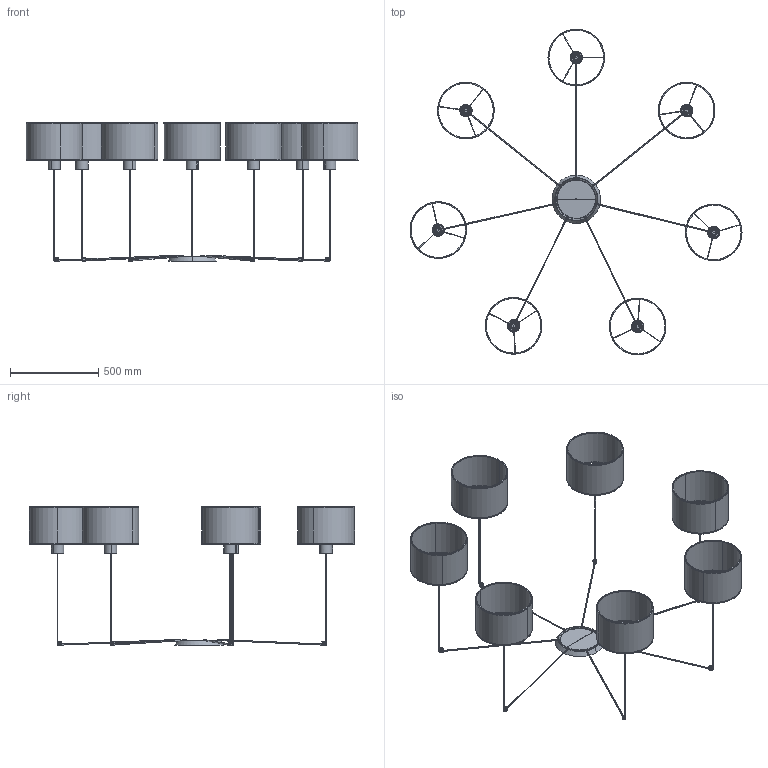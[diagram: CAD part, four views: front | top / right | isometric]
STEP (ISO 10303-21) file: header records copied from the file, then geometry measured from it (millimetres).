
FILE_DESCRIPTION(/* description */ (''),/* implementation_level */ '2;1');
FILE_NAME(/* name */ 'C:\Users\Franco Sartori E\Documents\FARO\DUPLICADO\Modelos\01_Digitalizados\2021\0_MAMBO_SAMBA_CONGA\03_Publicación\64314-48-7L.stp',/* time_stamp */ '2021-02-16T09:13:07+01:00',/* author */ ('Franco Sartori E'),/* organization */ (''),/* preprocessor_version */ 'ST-DEVELOPER v18.1',/* originating_system */ 'AutoCAD Mechanical',/* authorisation */ '');
FILE_SCHEMA (('AUTOMOTIVE_DESIGN { 1 0 10303 214 3 1 1 }'));
Length unit declared in the file: millimetre
Products named in the file (3): Product; CANOPY_7 - 68603-383073-_3D_; MAMBO320_FMA - LH-383424-_3D_
Assembly tree (8 placements, depth 2):
  Product
    CANOPY_7 - 68603-383073-_3D_
    MAMBO320_FMA - LH-383424-_3D_  x7
Bounding box: 1877.62 x 1840.81 x 786.09 mm (x, y, z)
Volume: 1449858.4 mm3; surface area: 4323407.8 mm2
Topology: 114 solids, 128 shells, 1661 faces, 3779 edges, 2193 vertices
Faces by surface type: cylinder 723, plane 588, torus 270, cone 80
Entity records: 47993 total; most frequent: CARTESIAN_POINT 22217, ORIENTED_EDGE 5279, DIRECTION 5215, EDGE_CURVE 2685, AXIS2_PLACEMENT_3D 2076, VERTEX_POINT 1599, EDGE_LOOP 1253, FACE_OUTER_BOUND 1175
